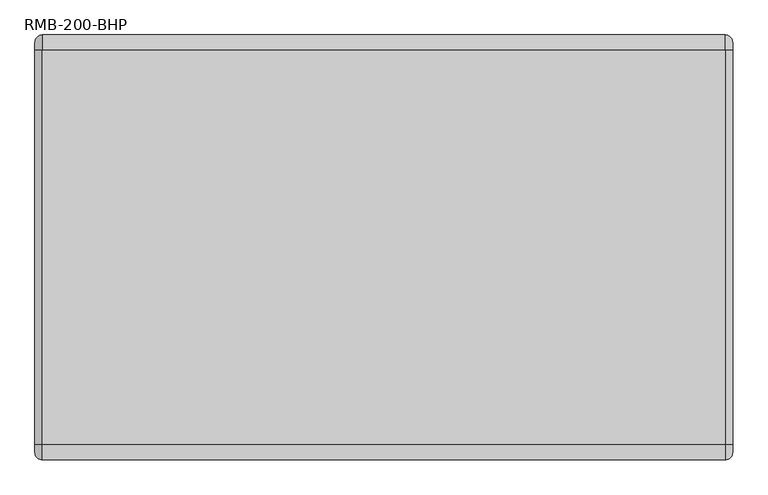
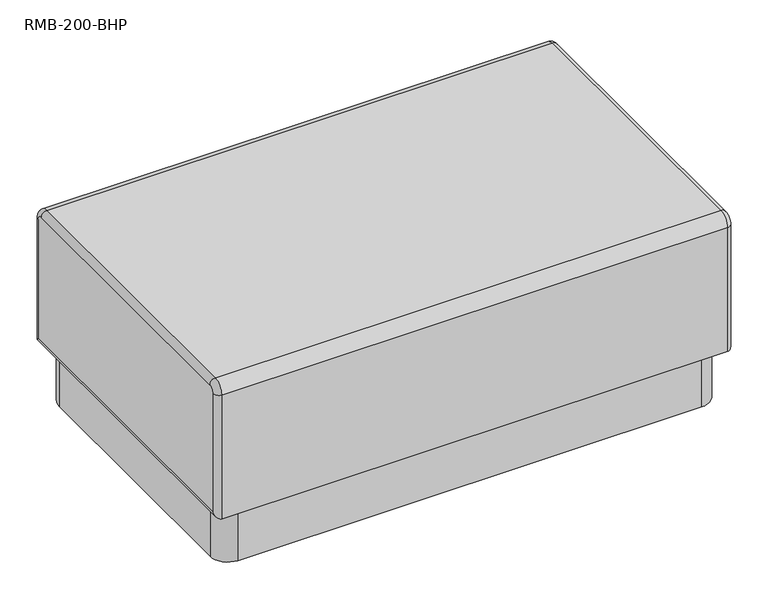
"""IFC4 building model written with IfcOpenShell, lengths in millimetres: furniture geometry, Stance_HC-Rosetta-Bench_Plinth_Base : RMB-200-BHP."""

from ifc_helpers import new_model, si_unit, point, frame, frame_2d, origin, origin_with_axes, place, context, project, spatial, polyline, circle_curve, ellipse_curve, trimmed, segment, composite_curve, outline, extrude, source, transform, mapped, element, save
from ifc_brep_helpers import plane_surface, cylinder_surface, revolved_surface, advanced_brep


def rmb_200_bhp_3a3eb55d(model_context):
    return source(origin(), model_context, "Body", "SolidModel", [
        advanced_brep(
        [(1155.7, -711.1999758, 431.8), (1155.7, -685.7999758, 457.2), (12.7, -685.7999758, 457.2), (12.7, -711.1999758, 431.8), (12.7, -711.1999758, 134.88162), (1155.7, -711.1999758, 134.88162), (12.7, 0.0, 134.88162), (1155.7, 0.0, 134.88162), (12.7, 0.0, 431.8), (1155.7, 0.0, 431.8), (1155.7, -25.4, 457.2), (12.7, -25.4, 457.2), (1168.4, -698.4999758, 431.8), (1168.4, -685.7999758, 444.5), (0.0, -685.7999758, 444.5), (0.0, -698.4999758, 431.8), (1168.4, -698.4999758, 147.58162), (0.0, -698.4999758, 147.58162), (1168.4, -12.7, 147.58162), (0.0, -12.7, 147.58162), (1168.4, -12.7, 431.8), (0.0, -12.7, 431.8), (1168.4, -25.4, 444.5), (0.0, -25.4, 444.5)],
        [
            (0, 1, circle_curve(frame((1155.7, -685.7999758, 431.8), z_axis=(-1.0, 0.0, 0.0), x_axis=(0.0, 0.0, 1.0)), 25.4)),
            (1, 2),
            (2, 3, circle_curve(frame((12.7, -685.7999758, 431.8), z_axis=(1.0, 0.0, 0.0), x_axis=(0.0, 0.0, 1.0)), 25.4)),
            (3, 0),
            (3, 4),
            (4, 5),
            (5, 0),
            (4, 6),
            (6, 7),
            (7, 5),
            (6, 8),
            (8, 9),
            (9, 7),
            (1, 10),
            (10, 11),
            (11, 2),
            (0, 12, circle_curve(frame((1155.7, -698.4999758, 431.8), z_axis=(0.0, 0.0, 1.0), x_axis=(0.0, 1.0, 0.0)), 12.7)),
            (12, 13, circle_curve(frame((1168.4, -685.7999758, 431.8), z_axis=(-1.0, 0.0, 0.0), x_axis=(0.0, 0.0, 1.0)), 12.7)),
            (13, 1, circle_curve(frame((1155.7, -685.7999758, 444.5), z_axis=(0.0, -1.0, 0.0), x_axis=(0.0, 0.0, -1.0)), 12.7)),
            (2, 14, circle_curve(frame((12.7, -685.7999758, 444.5), z_axis=(0.0, -1.0, 0.0), x_axis=(0.0, 0.0, -1.0)), 12.7)),
            (14, 15, circle_curve(frame((0.0, -685.7999758, 431.8), z_axis=(1.0, 0.0, 0.0), x_axis=(0.0, 0.0, 1.0)), 12.7)),
            (15, 3, circle_curve(frame((12.7, -698.4999758, 431.8), z_axis=(0.0, 0.0, 1.0), x_axis=(0.0, 1.0, 0.0)), 12.7)),
            (5, 16, ellipse_curve(frame((1155.7, -698.4999758, 147.58162), z_axis=(0.0, -0.7071067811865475, 0.7071067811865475), x_axis=(0.0, 0.7071067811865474, 0.7071067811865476)), 17.9605122, 12.7)),
            (16, 12),
            (15, 17),
            (17, 4, ellipse_curve(frame((12.7, -698.4999758, 147.58162), z_axis=(0.0, -0.7071067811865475, 0.7071067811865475), x_axis=(0.0, 0.7071067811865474, 0.7071067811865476)), 17.9605122, 12.7)),
            (7, 18, ellipse_curve(frame((1155.7, -12.7, 147.58162), z_axis=(0.0, -0.7071067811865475, -0.7071067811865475), x_axis=(0.0, -0.7071067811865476, 0.7071067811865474)), 17.9605122, 12.7)),
            (18, 16),
            (17, 19),
            (19, 6, ellipse_curve(frame((12.7, -12.7, 147.58162), z_axis=(0.0, -0.7071067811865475, -0.7071067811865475), x_axis=(0.0, -0.7071067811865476, 0.7071067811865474)), 17.9605122, 12.7)),
            (9, 20, circle_curve(frame((1155.7, -12.7, 431.8), z_axis=(0.0, 0.0, -1.0), x_axis=(0.0, -1.0, 0.0)), 12.7)),
            (20, 18),
            (19, 21),
            (21, 8, circle_curve(frame((12.7, -12.7, 431.8), z_axis=(0.0, 0.0, -1.0), x_axis=(0.0, -1.0, 0.0)), 12.7)),
            (13, 22),
            (22, 10, circle_curve(frame((1155.7, -25.4, 444.5), z_axis=(0.0, -1.0, 0.0), x_axis=(0.0, 0.0, -1.0)), 12.7)),
            (11, 23, circle_curve(frame((12.7, -25.4, 444.5), z_axis=(0.0, -1.0, 0.0), x_axis=(0.0, 0.0, -1.0)), 12.7)),
            (23, 14),
            (9, 10, circle_curve(frame((1155.7, -25.4, 431.8), z_axis=(1.0, 0.0, 0.0), x_axis=(0.0, 1.0, 0.0)), 25.4)),
            (22, 20, circle_curve(frame((1168.4, -25.4, 431.8), z_axis=(-1.0, 0.0, 0.0), x_axis=(0.0, 1.0, 0.0)), 12.7)),
            (23, 21, circle_curve(frame((0.0, -25.4, 431.8), z_axis=(-1.0, 0.0, 0.0), x_axis=(0.0, 1.0, 0.0)), 12.7)),
            (11, 8, circle_curve(frame((12.7, -25.4, 431.8), z_axis=(-1.0, 0.0, 0.0), x_axis=(0.0, 1.0, 0.0)), 25.4)),
        ],
        [
            cylinder_surface(frame((0.0, -685.7999758, 431.8), z_axis=(1.0, 0.0, 0.0), x_axis=(0.0, 0.0, 1.0)), 25.4),
            plane_surface(frame((12.7, -711.1999758, 431.8), z_axis=(0.0, -1.0, 0.0), x_axis=(0.0, 0.0, -1.0))),
            plane_surface(frame((12.7, -711.1999758, 134.88162), z_axis=(0.0, 0.0, -1.0), x_axis=(0.0, 1.0, 0.0))),
            plane_surface(frame((12.7, 0.0, 134.88162), z_axis=(0.0, 1.0, 0.0), x_axis=(0.0, 0.0, 1.0))),
            plane_surface(frame((12.7, -25.4, 457.2), z_axis=(0.0, 0.0, 1.0), x_axis=(0.0, -1.0, 0.0))),
            revolved_surface(trimmed(ellipse_curve(frame((1155.7, -685.7999758, 444.5), z_axis=(0.0, 1.0, 0.0), x_axis=(0.0, 0.0, -1.0)), 12.7, 12.7), [point((1155.7, -685.7999758, 457.2))], [point((1168.4, -685.7999758, 444.5))], True, "CARTESIAN"), (0.0, -685.7999758, 431.8), (1.0, 0.0, 0.0)),
            revolved_surface(trimmed(ellipse_curve(frame((12.7, -685.7999758, 444.5), z_axis=(0.0, 1.0, 0.0), x_axis=(0.0, 0.0, -1.0)), 12.7, 12.7), [point((0.0, -685.7999758, 444.5))], [point((12.7, -685.7999758, 457.2))], True, "CARTESIAN"), (0.0, -685.7999758, 431.8), (1.0, 0.0, 0.0)),
            cylinder_surface(frame((1155.7, -698.4999758, 431.8), z_axis=(0.0, 0.0, 1.0), x_axis=(0.0, 1.0, 0.0)), 12.7),
            cylinder_surface(frame((12.7, -698.4999758, 431.8), z_axis=(0.0, 0.0, 1.0), x_axis=(0.0, 1.0, 0.0)), 12.7),
            cylinder_surface(frame((1155.7, -711.1999758, 147.58162), z_axis=(0.0, -1.0, 0.0), x_axis=(0.0, 0.0, 1.0)), 12.7),
            cylinder_surface(frame((12.7, -711.1999758, 147.58162), z_axis=(0.0, -1.0, 0.0), x_axis=(0.0, 0.0, 1.0)), 12.7),
            cylinder_surface(frame((1155.7, -12.7, 134.88162), z_axis=(0.0, 0.0, -1.0), x_axis=(0.0, -1.0, 0.0)), 12.7),
            cylinder_surface(frame((12.7, -12.7, 134.88162), z_axis=(0.0, 0.0, -1.0), x_axis=(0.0, -1.0, 0.0)), 12.7),
            cylinder_surface(frame((1155.7, -25.4, 444.5), z_axis=(0.0, 1.0, 0.0), x_axis=(0.0, 0.0, -1.0)), 12.7),
            cylinder_surface(frame((12.7, -25.4, 444.5), z_axis=(0.0, 1.0, 0.0), x_axis=(0.0, 0.0, -1.0)), 12.7),
            revolved_surface(trimmed(ellipse_curve(frame((1155.7, -12.7, 431.8), z_axis=(0.0, 0.0, -1.0), x_axis=(0.0, -1.0, 0.0)), 12.7, 12.7), [point((1155.7, 0.0, 431.8))], [point((1168.4, -12.7, 431.8))], True, "CARTESIAN"), (0.0, -25.4, 431.8), (1.0, 0.0, 0.0)),
            plane_surface(frame((1168.4, -25.4, 431.8), z_axis=(1.0, 0.0, 0.0), x_axis=(0.0, 1.0, 0.0))),
            plane_surface(frame((0.0, -25.4, 431.8), z_axis=(-1.0, 0.0, 0.0), x_axis=(0.0, 1.0, 0.0))),
            revolved_surface(trimmed(ellipse_curve(frame((12.7, -12.7, 431.8), z_axis=(0.0, 0.0, -1.0), x_axis=(0.0, -1.0, 0.0)), 12.7, 12.7), [point((0.0, -12.7, 431.8))], [point((12.7, 0.0, 431.8))], True, "CARTESIAN"), (0.0, -25.4, 431.8), (1.0, 0.0, 0.0)),
            cylinder_surface(frame((0.0, -25.4, 431.8), z_axis=(1.0, 0.0, 0.0), x_axis=(0.0, 1.0, 0.0)), 25.4),
        ],
        [
            (0, [[1, 2, 3, 4]]),
            (1, [[-4, 5, 6, 7]]),
            (2, [[-6, 8, 9, 10]]),
            (3, [[-9, 11, 12, 13]]),
            (4, [[-2, 14, 15, 16]]),
            (5, [[-1, 17, 18, 19]]),
            (6, [[-3, 20, 21, 22]]),
            (7, [[-7, 23, 24, -17]]),
            (8, [[-5, -22, 25, 26]]),
            (9, [[-10, 27, 28, -23]]),
            (10, [[-8, -26, 29, 30]]),
            (11, [[-13, 31, 32, -27]]),
            (12, [[-11, -30, 33, 34]]),
            (13, [[-14, -19, 35, 36]]),
            (14, [[-16, 37, 38, -20]]),
            (15, [[-31, 39, -36, 40]]),
            (16, [[-18, -24, -28, -32, -40, -35]]),
            (17, [[-21, -38, 41, -33, -29, -25]]),
            (18, [[-34, -41, -37, 42]]),
            (19, [[-12, -42, -15, -39]]),
        ],
    ),
        extrude(outline(composite_curve([segment(trimmed(circle_curve(frame_2d((54.0078674, -657.1680567)), 11.90625), [point((54.0078674, -669.0743067))], [point((54.0078674, -645.2618067))], False, "CARTESIAN"), True, "CONTINUOUS"), segment(trimmed(circle_curve(frame_2d((54.0078674, -657.1680567)), 11.90625), [point((54.0078674, -645.2618067))], [point((54.0078674, -669.0743067))], False, "CARTESIAN"), True, "CONTINUOUS")], self_intersect=False)), origin_with_axes(), (0.0, 0.0, 1.0), 6.3627),
        extrude(outline(composite_curve([segment(trimmed(circle_curve(frame_2d((1114.3921326, -657.1680567)), 11.90625), [point((1114.3921326, -669.0743067))], [point((1114.3921326, -645.2618067))], False, "CARTESIAN"), True, "CONTINUOUS"), segment(trimmed(circle_curve(frame_2d((1114.3921326, -657.1680567)), 11.90625), [point((1114.3921326, -645.2618067))], [point((1114.3921326, -669.0743067))], False, "CARTESIAN"), True, "CONTINUOUS")], self_intersect=False)), origin_with_axes(), (0.0, 0.0, 1.0), 6.3627),
        extrude(outline(composite_curve([segment(trimmed(circle_curve(frame_2d((54.0078674, -54.0319433)), 11.90625), [point((54.0078674, -65.9381933))], [point((54.0078674, -42.1256933))], False, "CARTESIAN"), True, "CONTINUOUS"), segment(trimmed(circle_curve(frame_2d((54.0078674, -54.0319433)), 11.90625), [point((54.0078674, -42.1256933))], [point((54.0078674, -65.9381933))], False, "CARTESIAN"), True, "CONTINUOUS")], self_intersect=False)), origin_with_axes(), (0.0, 0.0, 1.0), 6.3627),
        extrude(outline(composite_curve([segment(trimmed(circle_curve(frame_2d((1114.3921326, -54.0319433)), 11.90625), [point((1114.3921326, -65.9381933))], [point((1114.3921326, -42.1256933))], False, "CARTESIAN"), True, "CONTINUOUS"), segment(trimmed(circle_curve(frame_2d((1114.3921326, -54.0319433)), 11.90625), [point((1114.3921326, -42.1256933))], [point((1114.3921326, -65.9381933))], False, "CARTESIAN"), True, "CONTINUOUS")], self_intersect=False)), origin_with_axes(), (0.0, 0.0, 1.0), 6.3627),
        extrude(outline(composite_curve([segment(trimmed(circle_curve(frame_2d((1108.4875, -59.9125)), 39.6875), [point((1108.4875, -20.225))], [point((1148.175, -59.9125))], False, "CARTESIAN"), True, "CONTINUOUS"), segment(polyline([(1148.175, -59.9125), (1148.175, -651.2875)]), True, "CONTINUOUS"), segment(trimmed(circle_curve(frame_2d((1108.4875, -651.2875)), 39.6875), [point((1148.175, -651.2875))], [point((1108.4875, -690.975))], False, "CARTESIAN"), True, "CONTINUOUS"), segment(polyline([(1108.4875, -690.975), (59.9125, -690.975)]), True, "CONTINUOUS"), segment(trimmed(circle_curve(frame_2d((59.9125, -651.2875)), 39.6875), [point((59.9125, -690.975))], [point((20.225, -651.2875))], False, "CARTESIAN"), True, "CONTINUOUS"), segment(polyline([(20.225, -651.2875), (20.225, -59.9125)]), True, "CONTINUOUS"), segment(trimmed(circle_curve(frame_2d((59.9125, -59.9125)), 39.6875), [point((20.225, -59.9125))], [point((59.9125, -20.225))], False, "CARTESIAN"), True, "CONTINUOUS"), segment(polyline([(59.9125, -20.225), (1108.4875, -20.225)]), True, "CONTINUOUS")], self_intersect=False)), frame((0.0, 0.0, 6.3627), z_axis=(0.0, 0.0, 1.0), x_axis=(1.0, 0.0, 0.0)), (0.0, 0.0, 1.0), 128.51892),
    ])


if __name__ == "__main__":
    model = new_model("IFC4")
    model_context = context("Model", 3, world=origin())
    ifc_project = project(units=[si_unit("LENGTHUNIT", "METRE", prefix="MILLI")], contexts=[model_context])
    site = spatial("IfcSite", under=ifc_project)
    building = spatial("IfcBuilding", under=site)
    placement = place(None, origin())
    rmb_200_bhp_shape = rmb_200_bhp_3a3eb55d(model_context)
    element("IfcFurniture", 1, ObjectType="Stance_HC-Rosetta-Bench_Plinth_Base : RMB-200-BHP", at=placement, inside=building, context=model_context, shape_type="MappedRepresentation", body=[
        mapped(rmb_200_bhp_shape, transform((0.0, 0.0, 0.0), x_axis=(1.0, 0.0, 0.0), y_axis=(0.0, 1.0, 0.0), z_axis=(0.0, 0.0, 1.0))),
    ])
    save(model, "model.ifc")
